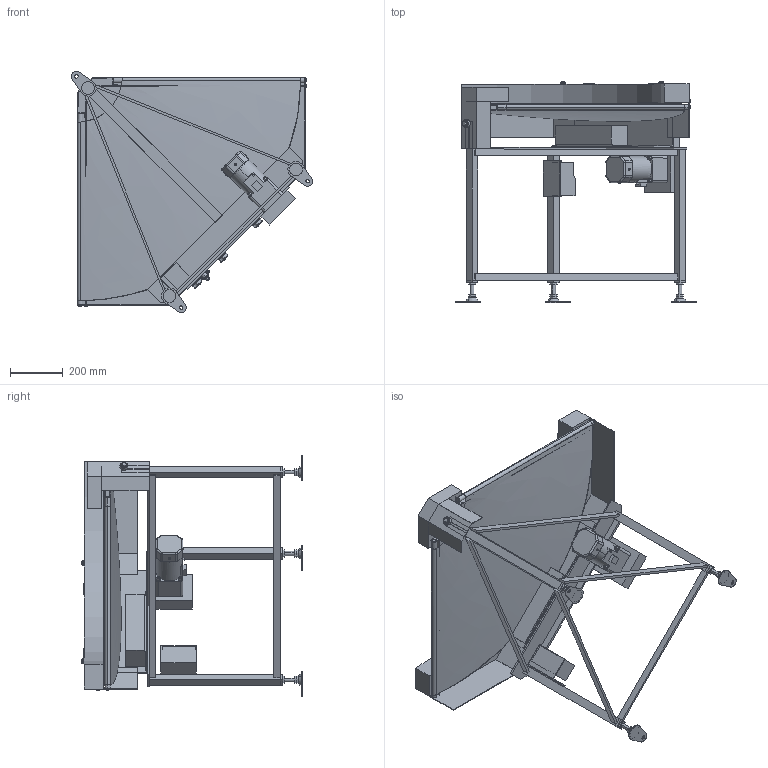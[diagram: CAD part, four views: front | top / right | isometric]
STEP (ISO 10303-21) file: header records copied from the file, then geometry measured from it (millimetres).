
FILE_DESCRIPTION (( 'STEP AP214' ), '1' );
FILE_NAME ('GBC90-UDH600-R.STEP', '2024-12-11T00:53:13', ( '' ), ( '' ), 'SwSTEP 2.0', 'SolidWorks 2017', '' );
FILE_SCHEMA (( 'AUTOMOTIVE_DESIGN' ));
Length unit declared in the file: millimetre
Products named in the file (1): GBC90-UDH600-R
Bounding box: 917.51 x 839.92 x 917.51 mm (x, y, z)
Volume: 26672118.3 mm3; surface area: 5896304.7 mm2
Topology: 55 solids, 60 shells, 1146 faces, 2623 edges, 1675 vertices
Faces by surface type: plane 615, cylinder 328, cone 107, bspline 64, torus 24, sphere 8
Entity records: 41086 total; most frequent: CARTESIAN_POINT 13688, DIRECTION 5318, ORIENTED_EDGE 5214, EDGE_CURVE 2607, AXIS2_PLACEMENT_3D 1914, VERTEX_POINT 1671, LINE 1490, VECTOR 1490
